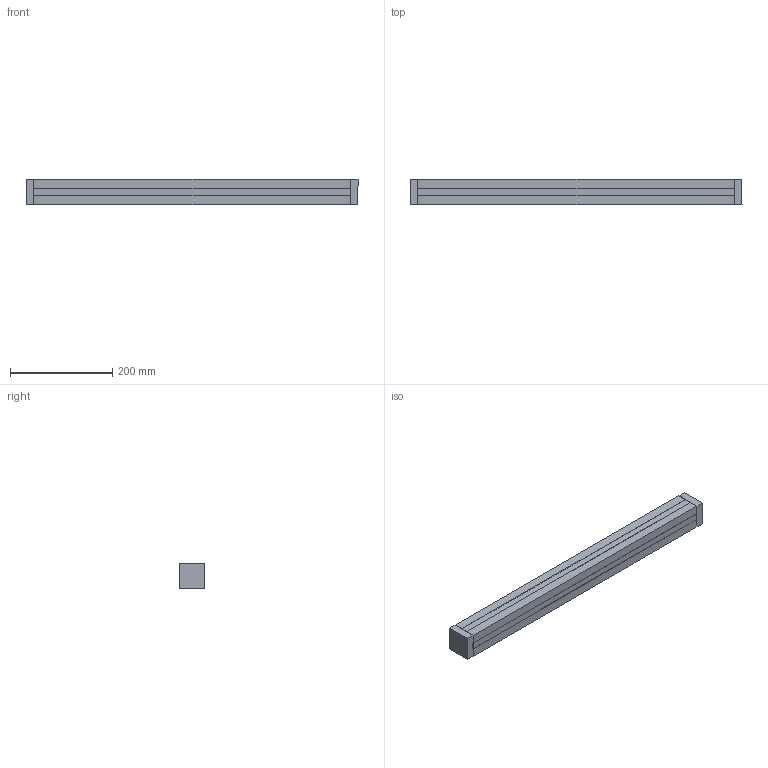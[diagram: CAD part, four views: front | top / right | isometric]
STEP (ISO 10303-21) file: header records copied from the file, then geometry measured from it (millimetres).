
FILE_DESCRIPTION (( 'STEP AP214' ), '1' );
FILE_NAME ('PIL5050SNN-620MM.STEP', '2021-03-08T22:53:05', ( '' ), ( '' ), 'SwSTEP 2.0', 'SolidWorks 2021', '' );
FILE_SCHEMA (( 'AUTOMOTIVE_DESIGN' ));
Length unit declared in the file: millimetre
Products named in the file (1): PIL5050SNN-620MM
Bounding box: 650 x 50 x 50 mm (x, y, z)
Volume: 1068153.1 mm3; surface area: 412816.9 mm2
Topology: 6 solids, 6 shells, 110 faces, 294 edges, 196 vertices
Faces by surface type: plane 108, cylinder 2
Entity records: 4655 total; most frequent: CARTESIAN_POINT 601, ORIENTED_EDGE 588, DIRECTION 520, EDGE_CURVE 294, LINE 290, VECTOR 290, VERTEX_POINT 196, UNCERTAINTY_MEASURE_WITH_UNIT 118
